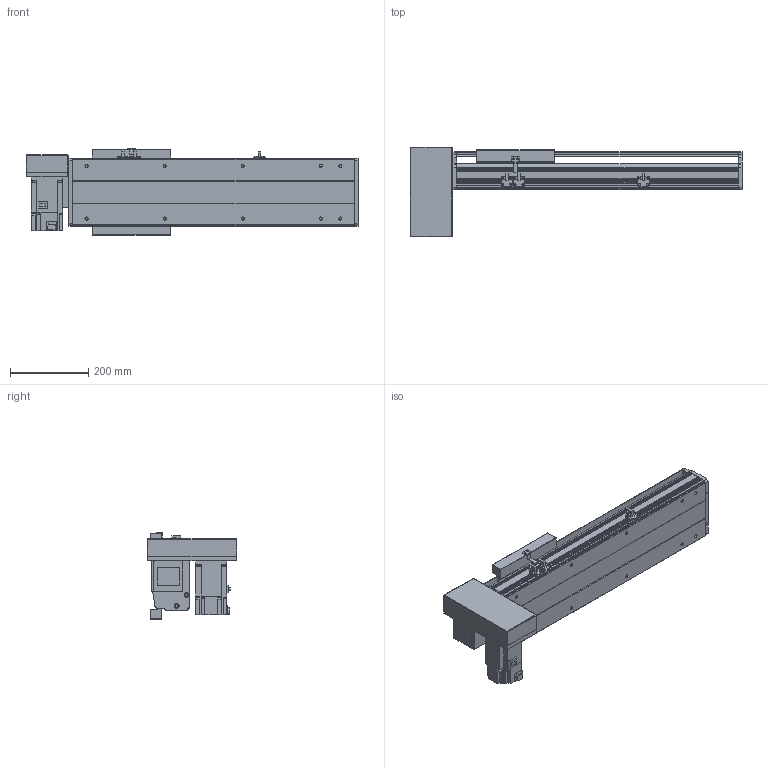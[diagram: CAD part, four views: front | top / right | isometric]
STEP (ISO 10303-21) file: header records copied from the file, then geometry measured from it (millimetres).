
FILE_DESCRIPTION(/* description */ ('STEP AP214'),/* implementation_level */ '2;1');
FILE_NAME(/* name */ 'PBS200-P40-S350-RD-T75-C1-N(0)',/* time_stamp */ '2022-06-11T09:27:55+02:00',/* author */ ('License CC BY-ND 4.0'),/* organization */ ('CADENAS'),/* preprocessor_version */ 'ST-DEVELOPER v18.102',/* originating_system */ 'PARTsolutions',/* authorisation */ ' ');
FILE_SCHEMA (('AUTOMOTIVE_DESIGN {1 0 10303 214 3 1 1}'));
Length unit declared in the file: millimetre
Products named in the file (7): PBS200-P40-S350-RD-T75-C1-N(0); PBS200_sensor; PBS200_plant; PBS200_sliser; T75-p1; PBS200T-RD_motors; PBS200-S350()_body
Assembly tree (8 placements, depth 2):
  PBS200-P40-S350-RD-T75-C1-N(0)
    PBS200_sensor  x3
    PBS200_plant
    PBS200_sliser
    T75-p1
    PBS200T-RD_motors
    PBS200-S350()_body
Bounding box: 850 x 230 x 221 mm (x, y, z)
Volume: 7177997.2 mm3; surface area: 1179841.5 mm2
Topology: 8 solids, 8 shells, 902 faces, 2344 edges, 1530 vertices
Faces by surface type: plane 568, cylinder 292, cone 42
Full cylindrical faces by diameter (mm): 2.459 x6, 3.242 x4, 4.5 x6, 4.917 x4, 5 x6, 6 x7, 6.6 x8, 6.647 x14, 8 x6, 10 x4, 12 x8, 38 x2, 40 x1, 70 x1
Entity records: 24221 total; most frequent: DIRECTION 4255, CARTESIAN_POINT 4138, ORIENTED_EDGE 3946, EDGE_CURVE 1973, AXIS2_PLACEMENT_3D 1471, VERTEX_POINT 1354, LINE 1313, VECTOR 1313
